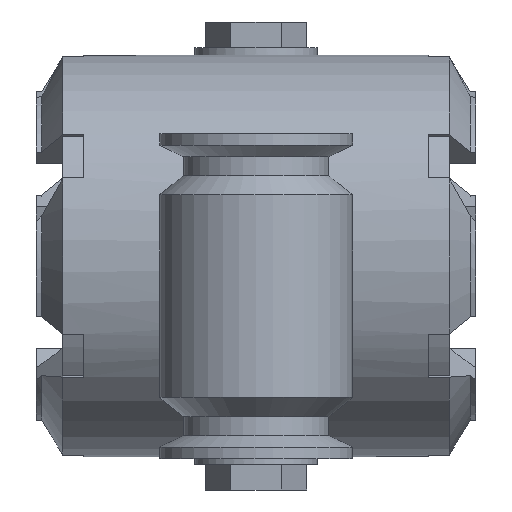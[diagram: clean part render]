
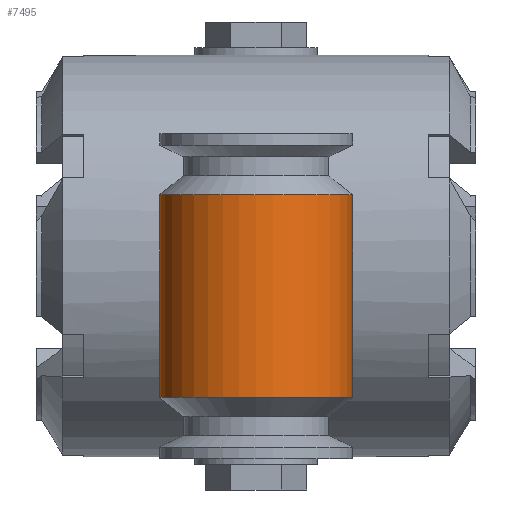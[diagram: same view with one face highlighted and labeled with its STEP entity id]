
A CAD part, front view. The second image highlights one B-rep face of the part: STEP entity #7495.
In plain terms, the highlighted cylindrical face has radius 25.25 mm (diameter 50.5 mm), a full revolution.
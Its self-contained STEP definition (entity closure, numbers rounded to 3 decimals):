
#751=CIRCLE('',#26920,25.25);
#752=CIRCLE('',#26921,25.25);
#5953=CYLINDRICAL_SURFACE('',#26922,25.25);
#6144=FACE_BOUND('',#10967,.T.);
#6145=FACE_BOUND('',#10968,.T.);
#6146=FACE_BOUND('',#10969,.T.);
#7495=ADVANCED_FACE('',(#6144,#6145,#6146),#5953,.T.);
#10967=EDGE_LOOP('',(#18127));
#10968=EDGE_LOOP('',(#18128));
#10969=EDGE_LOOP('',(#18129));
#18127=ORIENTED_EDGE('',*,*,#24245,.T.);
#18128=ORIENTED_EDGE('',*,*,#24246,.T.);
#18129=ORIENTED_EDGE('',*,*,#24247,.T.);
#20646=VERTEX_POINT('',#44256);
#20647=VERTEX_POINT('',#44258);
#20648=VERTEX_POINT('',#44260);
#24245=EDGE_CURVE('',#20646,#20646,#25912,.T.);
#24246=EDGE_CURVE('',#20647,#20647,#751,.T.);
#24247=EDGE_CURVE('',#20648,#20648,#752,.T.);
#25912=B_SPLINE_CURVE_WITH_KNOTS('',3,(#44232,#44233,#44234,#44235,#44236,
#44237,#44238,#44239,#44240,#44241,#44242,#44243,#44244,#44245,#44246,#44247,
#44248,#44249,#44250,#44251,#44252,#44253,#44254,#44255),.UNSPECIFIED.,
 .T.,.F.,(2,2,2,2,2,2,2,2,2,2,2,2,2,2),(-0.063,0.,0.125,0.25,0.375,0.438,
0.5,0.563,0.625,0.75,0.875,0.938,1.,1.125),.UNSPECIFIED.);
#26920=AXIS2_PLACEMENT_3D('',#44257,#31717,#31718);
#26921=AXIS2_PLACEMENT_3D('',#44259,#31719,#31720);
#26922=AXIS2_PLACEMENT_3D('',#44261,#31721,#31722);
#31717=DIRECTION('',(0.,0.,-1.));
#31718=DIRECTION('',(1.,0.,0.));
#31719=DIRECTION('',(0.,0.,1.));
#31720=DIRECTION('',(-1.,0.,0.));
#31721=DIRECTION('',(0.,0.,-1.));
#31722=DIRECTION('',(1.,0.,0.));
#44232=CARTESIAN_POINT('',(-1.143,13.287,15.726));
#44233=CARTESIAN_POINT('',(-6.502,12.658,14.051));
#44234=CARTESIAN_POINT('',(-9.121,11.601,11.168));
#44235=CARTESIAN_POINT('',(-12.202,10.163,4.573));
#44236=CARTESIAN_POINT('',(-12.71,9.818,0.691));
#44237=CARTESIAN_POINT('',(-11.582,10.438,-6.585));
#44238=CARTESIAN_POINT('',(-9.965,11.358,-10.08));
#44239=CARTESIAN_POINT('',(-5.999,12.562,-13.788));
#44240=CARTESIAN_POINT('',(-4.388,12.929,-14.773));
#44241=CARTESIAN_POINT('',(-0.792,13.302,-15.762));
#44242=CARTESIAN_POINT('',(1.137,13.288,-15.725));
#44243=CARTESIAN_POINT('',(4.679,12.88,-14.631));
#44244=CARTESIAN_POINT('',(6.276,12.499,-13.595));
#44245=CARTESIAN_POINT('',(8.86,11.689,-11.058));
#44246=CARTESIAN_POINT('',(9.897,11.252,-9.529));
#44247=CARTESIAN_POINT('',(12.213,10.174,-4.58));
#44248=CARTESIAN_POINT('',(12.722,9.83,-0.693));
#44249=CARTESIAN_POINT('',(11.593,10.449,6.59));
#44250=CARTESIAN_POINT('',(9.973,11.368,10.088));
#44251=CARTESIAN_POINT('',(6.001,12.569,13.795));
#44252=CARTESIAN_POINT('',(4.393,12.934,14.778));
#44253=CARTESIAN_POINT('',(0.781,13.304,15.765));
#44254=CARTESIAN_POINT('',(-1.143,13.287,15.726));
#44255=CARTESIAN_POINT('',(-6.502,12.658,14.051));
#44256=CARTESIAN_POINT('',(-2.929,13.078,15.168));
#44257=CARTESIAN_POINT('',(0.016,-12.,16.));
#44258=CARTESIAN_POINT('',(25.266,-12.,16.));
#44259=CARTESIAN_POINT('',(0.016,-12.,-37.));
#44260=CARTESIAN_POINT('',(-25.234,-12.,-37.));
#44261=CARTESIAN_POINT('',(0.016,-12.,46.));
